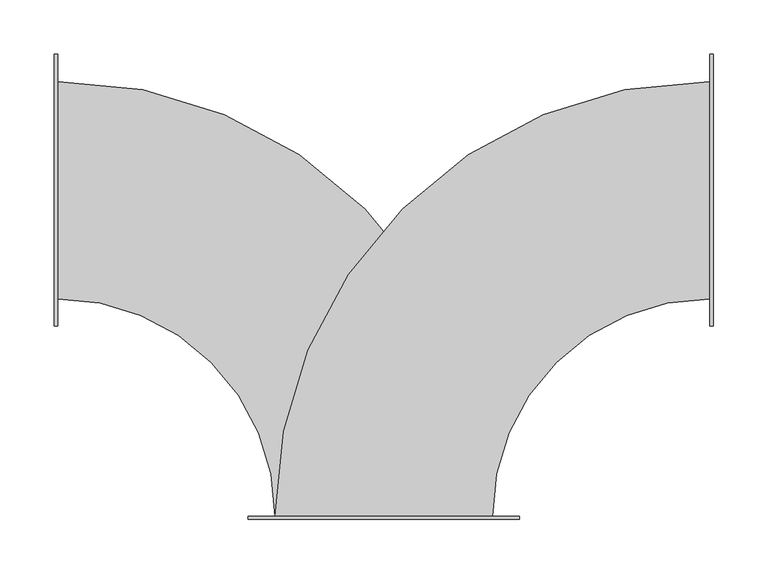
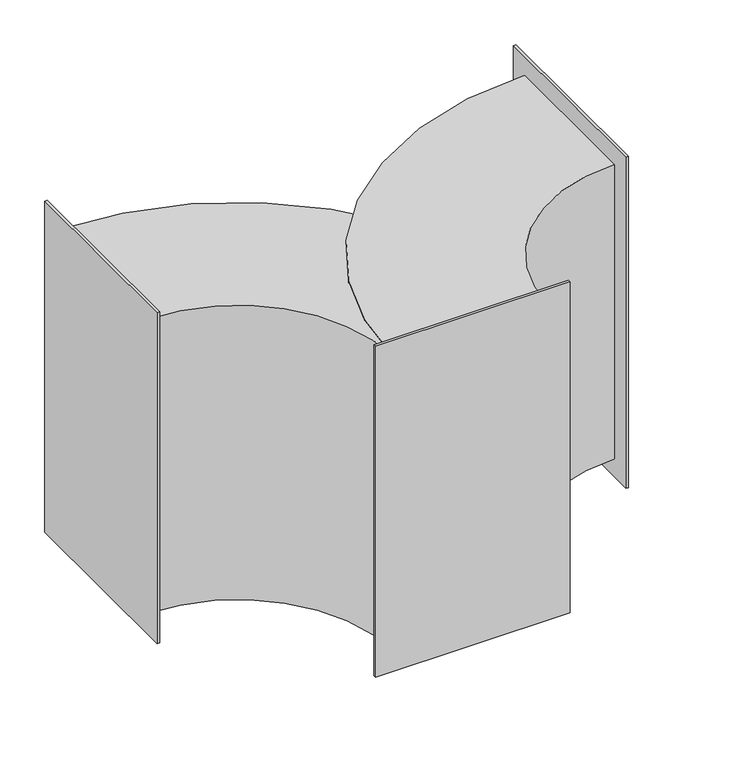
"""IFC4 building model written with IfcOpenShell, lengths in millimetres: duct fitting geometry, 矩形Y 形三通 - 弯曲 - 过渡件 - 底对齐 - 法兰 : 送风管 法兰Y形三通底对齐."""

from ifc_helpers import new_model, si_unit, point, frame, frame_2d, origin, place, context, project, spatial, polyline, circle_curve, trimmed, segment, composite_curve, outline, extrude, source, transform, mapped, element, save


def duct_fitting_371b4ede(model_context):
    return source(origin(), model_context, "Body", "SweptSolid", [
        extrude(outline(polyline([(-125.0, -300.0), (125.0, -300.0), (125.0, -303.0), (-125.0, -303.0), (-125.0, -300.0)])), frame((0.0, 0.0, -225.0), z_axis=(0.0, 0.0, 1.0), x_axis=(1.0, 0.0, 0.0)), (0.0, 0.0, 1.0), 450.0),
        extrude(outline(polyline([(300.0, -125.0), (300.0, 125.0), (303.0, 125.0), (303.0, -125.0), (300.0, -125.0)])), frame((0.0, 0.0, -225.0), z_axis=(0.0, 0.0, 1.0), x_axis=(1.0, 0.0, 0.0)), (0.0, 0.0, 1.0), 450.0),
        extrude(outline(polyline([(-303.0, -125.0), (-303.0, 125.0), (-300.0, 125.0), (-300.0, -125.0), (-303.0, -125.0)])), frame((0.0, 0.0, -225.0), z_axis=(0.0, 0.0, 1.0), x_axis=(1.0, 0.0, 0.0)), (0.0, 0.0, 1.0), 450.0),
        extrude(outline(composite_curve([segment(polyline([(300.0, 100.0), (300.0, -100.0)]), True, "CONTINUOUS"), segment(trimmed(circle_curve(frame_2d((300.0, -300.0)), 200.0), [point((300.0, -100.0))], [point((100.0, -300.0))], True, "CARTESIAN"), True, "CONTINUOUS"), segment(polyline([(100.0, -300.0), (-100.0, -300.0)]), True, "CONTINUOUS"), segment(trimmed(circle_curve(frame_2d((300.0, -300.0)), 400.0), [point((-100.0, -300.0))], [point((300.0, 100.0))], False, "CARTESIAN"), True, "CONTINUOUS")], self_intersect=False)), frame((0.0, 0.0, -200.0), z_axis=(0.0, 0.0, 1.0), x_axis=(1.0, 0.0, 0.0)), (0.0, 0.0, 1.0), 400.0),
        extrude(outline(composite_curve([segment(polyline([(-300.0, -100.0), (-300.0, 100.0)]), True, "CONTINUOUS"), segment(trimmed(circle_curve(frame_2d((-300.0, -300.0)), 400.0), [point((-300.0, 100.0))], [point((100.0, -300.0))], False, "CARTESIAN"), True, "CONTINUOUS"), segment(polyline([(100.0, -300.0), (-100.0, -300.0)]), True, "CONTINUOUS"), segment(trimmed(circle_curve(frame_2d((-300.0, -300.0)), 200.0), [point((-100.0, -300.0))], [point((-300.0, -100.0))], True, "CARTESIAN"), True, "CONTINUOUS")], self_intersect=False)), frame((0.0, 0.0, -200.0), z_axis=(0.0, 0.0, 1.0), x_axis=(1.0, 0.0, 0.0)), (0.0, 0.0, 1.0), 400.0),
    ])


if __name__ == "__main__":
    model = new_model("IFC4")
    model_context = context("Model", 3, world=origin())
    ifc_project = project(units=[si_unit("LENGTHUNIT", "METRE", prefix="MILLI")], contexts=[model_context])
    site = spatial("IfcSite", under=ifc_project)
    building = spatial("IfcBuilding", under=site)
    placement = place(None, origin())
    duct_fitting_shape = duct_fitting_371b4ede(model_context)
    element("IfcDuctFitting", 1, ObjectType="矩形Y 形三通 - 弯曲 - 过渡件 - 底对齐 - 法兰 : 送风管 法兰Y形三通底对齐", at=placement, inside=building, context=model_context, shape_type="MappedRepresentation", body=[
        mapped(duct_fitting_shape, transform((0.0, 0.0, 0.0), x_axis=(1.0, 0.0, 0.0), y_axis=(0.0, 1.0, 0.0), z_axis=(0.0, 0.0, 1.0))),
    ])
    save(model, "model.ifc")
